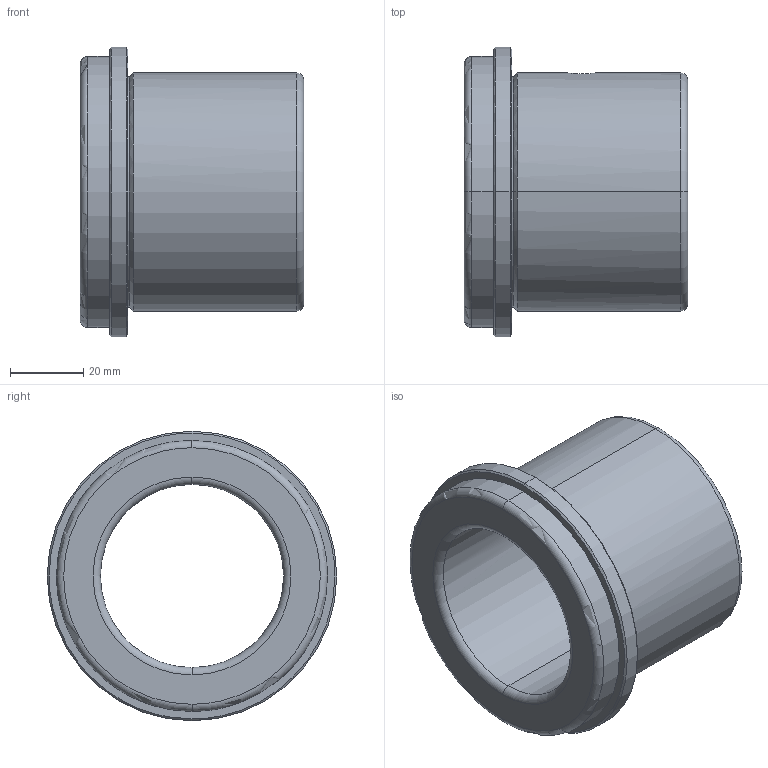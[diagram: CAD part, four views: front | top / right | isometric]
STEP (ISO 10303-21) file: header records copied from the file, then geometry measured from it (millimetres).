
FILE_DESCRIPTION(('CATIA V5 STEP Exchange'),'2;1');
FILE_NAME('C:\Users\Utente\Desktop\IO LAVORO\3D X SITO CF\X SITO\FAMO\FAMO-SF1-A50 x 61.stp','2021-01-06T16:19:08+00:00',('none'),('none'),'CATIA Version 5 Release 20 GA (IN-10)','CATIA V5 STEP AP203','none');
FILE_SCHEMA(('CONFIG_CONTROL_DESIGN'));
Length unit declared in the file: millimetre
Products named in the file (1): FAMO-SF1-A50 x 61
Bounding box: 61 x 79 x 79 mm (x, y, z)
Volume: 96761.4 mm3; surface area: 28222.3 mm2
Topology: 1 solids, 1 shells, 33 faces, 114 edges, 86 vertices
Faces by surface type: cylinder 12, torus 8, cone 8, plane 5
Entity records: 1561 total; most frequent: CARTESIAN_POINT 545, ORIENTED_EDGE 228, DIRECTION 156, EDGE_CURVE 114, AXIS2_PLACEMENT_3D 104, VERTEX_POINT 86, CIRCLE 70, EDGE_LOOP 40
